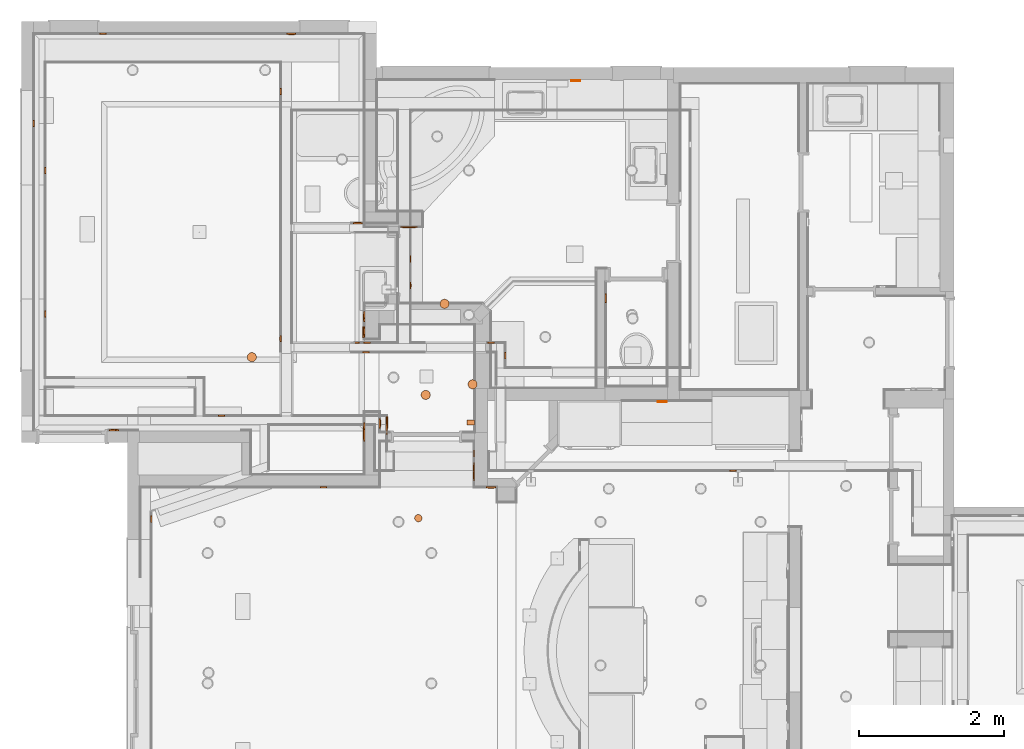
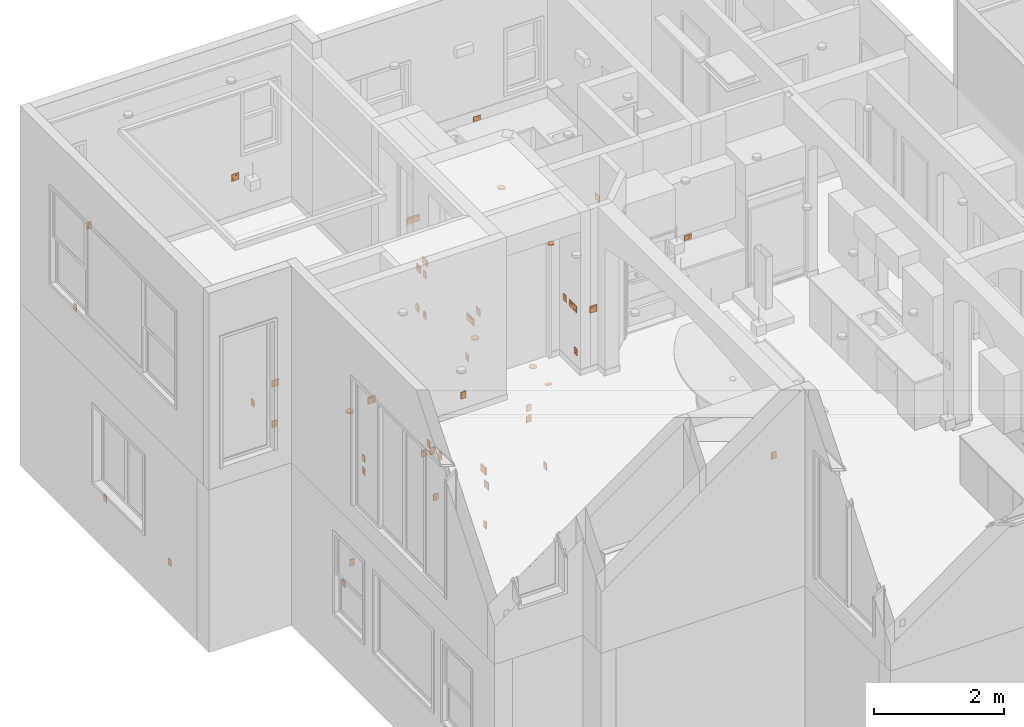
# One storey, part 54 of 60: 48 proxies.
"""IFC2X3 building model written with IfcOpenShell, lengths in feet."""

from ifc_helpers import new_model, entity, si_unit, converted_unit, direction, frame, frame_2d, origin, origin_2d_with_axis, place, context, subcontext, project, spatial, polyline, circle_curve, parameter, trimmed, segment, composite_curve, rectangle, circle, outline, extrude, source, transform, mapped, material, type_object, type_shapes, element, save


model = new_model("IFC2X3")

# Units and contexts
model_context = context("Model", 3, precision=0.0001, world=origin(), true_north=direction((6.123031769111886e-17, 1.0)))
plan_context = context("Plan", 3, precision=0.0001, world=origin(), true_north=direction((6.123031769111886e-17, 1.0)))
body_context = subcontext(model_context, "Body", "Model", "MODEL_VIEW")
ifc_project = project(units=[converted_unit("LENGTHUNIT", "FOOT", entity("IfcLengthMeasure", 0.3048), si_unit("LENGTHUNIT", "METRE"), dimensions=[1, 0, 0, 0, 0, 0, 0]), converted_unit("AREAUNIT", "SQUARE FOOT", entity("IfcAreaMeasure", 0.09290304), si_unit("AREAUNIT", "SQUARE_METRE"), dimensions=[2, 0, 0, 0, 0, 0, 0]), converted_unit("PLANEANGLEUNIT", "DEGREE", entity("IfcPlaneAngleMeasure", 0.017453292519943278), si_unit("PLANEANGLEUNIT", "RADIAN"), dimensions=[0, 0, 0, 0, 0, 0, 0])], contexts=[model_context, plan_context])

# Site, building, storey
site_placement = place(None, origin())
site = spatial("IfcSite", under=ifc_project, at=site_placement, Name="Default", CompositionType="ELEMENT")
building_placement = place(site_placement, origin())
building = spatial("IfcBuilding", under=site, at=building_placement, CompositionType="ELEMENT")
storey_placement = place(building_placement, origin())
storey = spatial("IfcBuildingStorey", under=building, at=storey_placement, Name="First floor", CompositionType="ELEMENT", Elevation=0.0)

# Proxies
ifc_material = material(Name="Default New Material")
building_element_proxy_type_1 = type_object("IfcBuildingElementProxyType", Name="switch 4:switch 4", PredefinedType="NOTDEFINED", material=ifc_material)
shared_shape_1 = source(origin(), body_context, "Body", "SweptSolid", [
    extrude(outline(composite_curve([segment(polyline([(-0.030916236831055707, -0.046587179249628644), (0.030916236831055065, -0.046587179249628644)]), True, "CONTINUOUS"), segment(trimmed(circle_curve(frame_2d((-0.00026496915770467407, 0.0), x_axis=(-1.0, 0.0)), 0.056059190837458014), [parameter(123.79474084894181)], [parameter(236.20525915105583)], True, "PARAMETER"), True, "CONTINUOUS"), segment(polyline([(0.030916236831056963, 0.04658717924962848), (-0.030916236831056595, 0.04658717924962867)]), True, "CONTINUOUS"), segment(trimmed(circle_curve(frame_2d((0.00026496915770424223, 0.0), x_axis=(-1.0, 0.0)), 0.056059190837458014), [parameter(303.79474084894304)], [parameter(56.2052591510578)], True, "PARAMETER"), True, "CONTINUOUS")], self_intersect=False), holes=[polyline([(0.01416238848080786, 0.027928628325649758), (0.026173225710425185, 0.02792862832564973), (0.026173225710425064, -0.006935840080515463), (0.01416238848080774, -0.006935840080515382), (0.01416238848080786, 0.027928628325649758)]), polyline([(-0.015270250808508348, 0.025046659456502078), (-0.015270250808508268, -0.004483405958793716), (-0.0278178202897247, -0.0044834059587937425), (-0.027817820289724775, 0.025046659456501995), (-0.015270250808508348, 0.025046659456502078)]), composite_curve([segment(polyline([(-0.01203154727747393, -0.041319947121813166), (-0.01203154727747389, -0.030018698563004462)]), True, "CONTINUOUS"), segment(trimmed(circle_curve(frame_2d((-0.00028489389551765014, -0.03001869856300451), x_axis=(-1.0, 0.0)), 0.011746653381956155), [parameter(180.00000000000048)], [parameter(3.5622212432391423e-13)], True, "PARAMETER"), False, "CONTINUOUS"), segment(polyline([(0.011461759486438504, -0.030018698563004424), (0.01146175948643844, -0.04131994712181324)]), True, "CONTINUOUS"), segment(polyline([(0.01146175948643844, -0.04131994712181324), (-0.01203154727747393, -0.041319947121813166)]), True, "CONTINUOUS")], self_intersect=False)]), frame((-0.0011190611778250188, 0.2703726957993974, 0.041666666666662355)), (0.0, 0.0, 1.0), 0.004209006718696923),
    extrude(outline(composite_curve([segment(polyline([(-0.030763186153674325, -0.04635654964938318), (0.030763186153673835, -0.04635654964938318)]), True, "CONTINUOUS"), segment(trimmed(circle_curve(frame_2d((-0.00026365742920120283, 0.0), x_axis=(-1.0, 0.0)), 0.05578167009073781), [parameter(123.79474084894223)], [parameter(236.20525915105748)], True, "PARAMETER"), True, "CONTINUOUS"), segment(polyline([(0.030763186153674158, 0.04635654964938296), (-0.030763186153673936, 0.04635654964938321)]), True, "CONTINUOUS"), segment(trimmed(circle_curve(frame_2d((0.0002636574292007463, 0.0), x_axis=(-1.0, 0.0)), 0.05578167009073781), [parameter(303.7947408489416)], [parameter(56.205259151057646)], True, "PARAMETER"), True, "CONTINUOUS")], self_intersect=False), holes=[polyline([(0.014092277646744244, 0.024722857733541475), (0.02604365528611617, 0.024722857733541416), (0.026043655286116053, -0.004727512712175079), (0.014092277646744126, -0.004727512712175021), (0.014092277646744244, 0.024722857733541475)]), polyline([(-0.01519465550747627, 0.024922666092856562), (-0.015194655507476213, -0.004461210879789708), (-0.027680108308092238, -0.00446121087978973), (-0.027680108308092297, 0.02492266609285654), (-0.01519465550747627, 0.024922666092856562)]), composite_curve([segment(polyline([(-0.011971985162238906, -0.04111539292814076), (-0.011971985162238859, -0.029870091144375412)]), True, "CONTINUOUS"), segment(trimmed(circle_curve(frame_2d((-0.00028348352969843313, -0.029870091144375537), x_axis=(-1.0, 0.0)), 0.011688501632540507), [parameter(179.9999999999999)], [parameter(0.0)], True, "PARAMETER"), False, "CONTINUOUS"), segment(polyline([(0.011405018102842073, -0.029870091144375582), (0.011405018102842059, -0.04111539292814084)]), True, "CONTINUOUS"), segment(polyline([(0.011405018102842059, -0.04111539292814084), (-0.011971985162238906, -0.04111539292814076)]), True, "CONTINUOUS")], self_intersect=False)]), frame((-0.0011190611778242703, 0.14560208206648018, 0.041666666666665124)), (0.0, 0.0, 1.0), 0.004209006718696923),
    extrude(rectangle(XDim=0.41666666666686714, YDim=0.2916666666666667, at=origin_2d_with_axis()), frame((0.0, 0.2083333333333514, 0.0), z_axis=(0.0, 0.0, 1.0), x_axis=(0.0, -1.0, 0.0)), (0.0, 0.0, 1.0), 0.041666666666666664),
])
type_shapes(building_element_proxy_type_1, [shared_shape_1])
for number, where, z_axis, x_axis, name in (
    (1, (-17.719826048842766, 31.583333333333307, 11.625000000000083), (0.0, 1.0, 0.0), (-1.0, 0.0, 0.0), "switch 4:switch 4"),
    (2, (-6.31250000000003, 31.79166666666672, 11.625000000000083), (-1.0, 0.0, 0.0), (0.0, -1.0, 0.0), "switch 4:switch 4"),
    (3, (-6.312500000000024, 36.083333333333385, 11.625000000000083), (-1.0, 0.0, 0.0), (0.0, -1.0, 0.0), "switch 4:switch 4"),
    (4, (-18.15517395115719, 49.5833333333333, 13.125000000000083), (0.0, -1.0, 0.0), (1.0, 0.0, 0.0), "switch 4:switch 4"),
    (5, (-21.312499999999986, 45.49999999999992, 11.625000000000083), (1.0, 0.0, 0.0), (0.0, 1.0, 0.0), "switch 4:switch 4"),
    (6, (-8.16666666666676, 29.04166666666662, 11.625002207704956), (0.0, -1.0, 0.0), (1.0, 0.0, 0.0), "switch 4:switch 4"),
    (7, (-1.3333333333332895, 29.46767395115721, 11.66666666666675), (-1.0, 0.0, 0.0), (0.0, -1.0, 0.0), "switch 4:switch 4"),
    (8, (10.374999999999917, 29.791666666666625, 0.9583355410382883), (0.0, -1.0, 0.0), (1.0, 0.0, 0.0), "switch 4:switch 4"),
    (9, (-6.2500000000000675, 35.16666666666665, 0.9583333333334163), (0.0, -1.0, 0.0), (1.0, 0.0, 0.0), "switch 4:switch 4"),
    (10, (-4.250000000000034, 38.16666666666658, 0.9583333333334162), (1.0, 0.0, 0.0), (0.0, 1.0, 0.0), "switch 4:switch 4"),
    (11, (-20.791666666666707, 36.87499999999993, 0.9583333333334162), (1.0, 0.0, 0.0), (0.0, 1.0, 0.0), "switch 4:switch 4"),
    (12, (-20.791666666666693, 43.37499999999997, 0.9583333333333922), (1.0, 0.0, 0.0), (0.0, 1.0, 0.0), "switch 4:switch 4"),
    (13, (-12.791666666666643, 32.249999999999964, 0.9583333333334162), (0.0, 1.0, 0.0), (-1.0, 0.0, 0.0), "switch 4:switch 4"),
    (14, (-10.083333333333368, 46.95833333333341, 0.9583333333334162), (-1.0, 0.0, 0.0), (0.0, -1.0, 0.0), "switch 4:switch 4"),
):
    element("IfcBuildingElementProxy", number, at=place(storey_placement, frame(where, z_axis=z_axis, x_axis=x_axis)), inside=storey, type_object=building_element_proxy_type_1, material=ifc_material, Name=name, ObjectType="switch 4:switch 4", context=body_context, shape_type="MappedRepresentation", body=[
        mapped(shared_shape_1, transform((0.0, 0.0, 0.0), scale=1.0)),
    ])
building_element_proxy_type_2 = type_object("IfcBuildingElementProxyType", Name="switch 1:switch 1", PredefinedType="NOTDEFINED", material=ifc_material)
shared_shape_2 = source(origin(), body_context, "Body", "SweptSolid", [
    extrude(rectangle(XDim=0.29166666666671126, YDim=0.41666666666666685, at=frame_2d((0.0, 2.7755575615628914e-17), x_axis=(1.0, 0.0))), frame((0.0, 0.20833333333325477, 0.0)), (0.0, 0.0, 1.0), 0.041666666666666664),
])
type_shapes(building_element_proxy_type_2, [shared_shape_2])
for number, where, z_axis, x_axis, name in (
    (15, (-6.312500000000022, 36.83333333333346, 11.625000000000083), (-1.0, 0.0, 0.0), (0.0, -1.0, 0.0), "switch 1:switch 1"),
    (16, (-6.312500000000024, 36.08333333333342, 14.125000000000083), (-1.0, 0.0, 0.0), (0.0, -1.0, 0.0), "switch 1:switch 1"),
    (17, (-1.3333333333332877, 30.56250000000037, 14.291666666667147), (-1.0, 0.0, 0.0), (0.0, -1.0, 0.0), "switch 1:switch 1"),
    (18, (-16.0, 27.58333333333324, 3.6250000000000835), (1.0, 0.0, 0.0), (0.0, 1.0, 0.0), "switch 1:switch 1"),
    (19, (-5.333333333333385, 31.749999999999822, 0.9583333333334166), (1.0, 0.0, 0.0), (0.0, 1.0, 0.0), "switch 1:switch 1"),
    (20, (-4.250000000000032, 39.35416666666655, 0.9583333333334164), (1.0, 0.0, 0.0), (0.0, 1.0, 0.0), "switch 1:switch 1"),
    (21, (-0.583333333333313, 35.54166666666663, 4.208333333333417), (0.0, 1.0, 0.0), (-1.0, 0.0, 0.0), "switch 1:switch 1"),
    (22, (0.041666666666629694, 35.0, 0.7500000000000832), (1.0, 0.0, 0.0), (0.0, 1.0, 0.0), "switch 1:switch 1"),
    (23, (-10.08333333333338, 35.750000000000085, 4.3333333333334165), (-1.0, 0.0, 0.0), (0.0, -1.0, 0.0), "switch 1:switch 1"),
    (24, (-6.208333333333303, 35.54166666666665, 3.5416666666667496), (0.0, 1.0, 0.0), (-1.0, 0.0, 0.0), "switch 1:switch 1"),
):
    element("IfcBuildingElementProxy", number, at=place(storey_placement, frame(where, z_axis=z_axis, x_axis=x_axis)), inside=storey, type_object=building_element_proxy_type_2, material=ifc_material, Name=name, ObjectType="switch 1:switch 1", context=body_context, shape_type="MappedRepresentation", body=[
        mapped(shared_shape_2, transform((0.0, 0.0, 0.0), scale=1.0)),
    ])
building_element_proxy_type_3 = type_object("IfcBuildingElementProxyType", Name="switch 6:switch 6", PredefinedType="NOTDEFINED", material=ifc_material)
shared_shape_3 = source(origin(), body_context, "Body", "SweptSolid", [
    extrude(outline(polyline([(-0.025444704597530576, -0.10104762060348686), (-0.007049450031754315, -0.10104762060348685), (-0.005760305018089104, -0.027097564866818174), (0.02168554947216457, 0.1140991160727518), (0.0165689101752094, 0.11509369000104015), (-0.025444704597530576, -0.10104762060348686)])), frame((0.015553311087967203, 0.21435624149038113, 0.047363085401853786), z_axis=(1.0, 0.0, 0.0), x_axis=(0.0, -0.19080899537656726, 0.9816271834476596)), (0.0, 0.0, 1.0), 0.11722231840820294),
    extrude(outline(polyline([(-0.10560931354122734, -0.005954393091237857), (0.11457744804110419, -0.005954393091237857), (0.11457744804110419, -0.0007419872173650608), (-0.02169697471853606, -0.0007419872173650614), (-0.10184860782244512, 0.013392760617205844), (-0.10560931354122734, -0.005954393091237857)])), frame((-0.1301384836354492, 0.20531775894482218, 0.047621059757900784), z_axis=(1.0, 0.0, 0.0), x_axis=(0.0, 1.0, 0.0)), (0.0, 0.0, 1.0), 0.11504888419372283),
    extrude(rectangle(XDim=0.41666666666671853, YDim=0.41666666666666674, at=origin_2d_with_axis()), frame((0.0, 0.20833333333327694, 0.0), z_axis=(0.0, 0.0, 1.0), x_axis=(0.0, -1.0, 0.0)), (0.0, 0.0, 1.0), 0.041666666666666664),
])
type_shapes(building_element_proxy_type_3, [shared_shape_3])
for number, where, z_axis, x_axis, name in (
    (25, (-17.64583333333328, 31.583333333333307, 14.125000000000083), (0.0, 1.0, 0.0), (-1.0, 0.0, 0.0), "switch 6:switch 6"),
    (26, (-6.312500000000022, 36.72916666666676, 14.125000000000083), (-1.0, 0.0, 0.0), (0.0, -1.0, 0.0), "switch 6:switch 6"),
    (27, (-9.625000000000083, 49.58333333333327, 13.125000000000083), (0.0, -1.0, 0.0), (1.0, 0.0, 0.0), "switch 6:switch 6"),
    (28, (-0.583333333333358, 29.041666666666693, 14.291666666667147), (0.0, -1.0, 0.0), (1.0, 0.0, 0.0), "switch 6:switch 6"),
    (29, (-5.645833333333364, 31.916666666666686, 14.125000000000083), (1.0, 0.0, 0.0), (0.0, 1.0, 0.0), "switch 6:switch 6"),
    (30, (-5.333333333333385, 31.62499999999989, 3.500000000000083), (1.0, 0.0, 0.0), (0.0, 1.0, 0.0), "switch 6:switch 6"),
    (31, (-6.624999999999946, 40.95833333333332, 3.5416666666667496), (0.0, 1.0, 0.0), (-1.0, 0.0, 0.0), "switch 6:switch 6"),
    (32, (4.58333333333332, 37.582988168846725, 14.125000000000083), (1.0, 0.0, 0.0), (0.0, 1.0, 0.0), "switch 6:switch 6"),
):
    element("IfcBuildingElementProxy", number, at=place(storey_placement, frame(where, z_axis=z_axis, x_axis=x_axis)), inside=storey, type_object=building_element_proxy_type_3, material=ifc_material, Name=name, ObjectType="switch 6:switch 6", context=body_context, shape_type="MappedRepresentation", body=[
        mapped(shared_shape_3, transform((0.0, 0.0, 0.0), scale=1.0)),
    ])
building_element_proxy_type_4 = type_object("IfcBuildingElementProxyType", Name="switch 3:switch 3", PredefinedType="NOTDEFINED", material=ifc_material)
shared_shape_4 = source(origin(), body_context, "Body", "SweptSolid", [
    extrude(outline(polyline([(-0.10405409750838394, -0.0058649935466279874), (0.11210607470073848, -0.0058649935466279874), (0.11210607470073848, -0.0006525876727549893), (-0.02127056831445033, -0.0006525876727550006), (-0.09888748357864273, 0.013035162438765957), (-0.10405409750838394, -0.0058649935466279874)])), frame((-0.058349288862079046, 0.2099944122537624, 0.047531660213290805), z_axis=(1.0, 0.0, 0.0), x_axis=(0.0, 1.0, 0.0)), (0.0, 0.0, 1.0), 0.11669857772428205),
    extrude(rectangle(XDim=0.41666666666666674, YDim=0.2916666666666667, at=origin_2d_with_axis()), frame((0.0, 0.20833333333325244, 0.0), z_axis=(0.0, 0.0, 1.0), x_axis=(0.0, -1.0, 0.0)), (0.0, 0.0, 1.0), 0.041666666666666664),
])
type_shapes(building_element_proxy_type_4, [shared_shape_4])
for number, where, z_axis, x_axis, name in (
    (33, (-0.5833333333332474, 35.54166666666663, 3.5416666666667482), (0.0, 1.0, 0.0), (-1.0, 0.0, 0.0), "switch 3:switch 3"),
    (34, (-10.08333333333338, 35.75000000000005, 3.5416666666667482), (-1.0, 0.0, 0.0), (0.0, -1.0, 0.0), "switch 3:switch 3"),
    (35, (-6.708333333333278, 35.54166666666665, 3.5416666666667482), (0.0, 1.0, 0.0), (-1.0, 0.0, 0.0), "switch 3:switch 3"),
):
    element("IfcBuildingElementProxy", number, at=place(storey_placement, frame(where, z_axis=z_axis, x_axis=x_axis)), inside=storey, type_object=building_element_proxy_type_4, material=ifc_material, Name=name, ObjectType="switch 3:switch 3", context=body_context, shape_type="MappedRepresentation", body=[
        mapped(shared_shape_4, transform((0.0, 0.0, 0.0), scale=1.0)),
    ])
building_element_proxy_type_5 = type_object("IfcBuildingElementProxyType", Name="switch 22:switch 22", PredefinedType="NOTDEFINED", material=ifc_material)
shared_shape_5 = source(origin(), body_context, "Body", "SweptSolid", [
    extrude(outline(polyline([(-0.1024795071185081, -0.006558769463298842), (0.11153581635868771, -0.006558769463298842), (0.11153581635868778, -0.00013120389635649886), (-0.02198831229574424, -0.00013120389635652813), (-0.09860381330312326, 0.013379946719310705), (-0.1024795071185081, -0.006558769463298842)])), frame((0.16096584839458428, 0.2062485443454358, 0.048225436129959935), z_axis=(1.0, 0.0, 0.0), x_axis=(0.0, 1.0, 0.0)), (0.0, 0.0, 1.0), 0.12240828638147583),
    extrude(outline(polyline([(-0.10247950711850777, -0.006558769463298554), (0.11153581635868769, -0.006558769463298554), (0.1115358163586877, -0.00013120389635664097), (-0.021988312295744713, -0.0001312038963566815), (-0.09860381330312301, 0.013379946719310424), (-0.10247950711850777, -0.006558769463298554)])), frame((0.015378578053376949, 0.20624854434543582, 0.048225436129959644), z_axis=(1.0, 0.0, 0.0), x_axis=(0.0, 1.0, 0.0)), (0.0, 0.0, 1.0), 0.12240828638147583),
    extrude(outline(polyline([(-0.025847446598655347, -0.09895516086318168), (-0.0058806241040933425, -0.09895516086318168), (-0.004558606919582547, -0.023119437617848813), (0.02129807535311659, 0.10990166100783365), (0.01498860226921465, 0.11112809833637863), (-0.025847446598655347, -0.09895516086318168)])), frame((-0.1342669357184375, 0.21445876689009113, 0.04815768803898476), z_axis=(1.0, 0.0, 0.0), x_axis=(0.0, -0.19080899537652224, 0.9816271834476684)), (0.0, 0.0, 1.0), 0.1224082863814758),
    extrude(outline(polyline([(-0.025847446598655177, -0.09895516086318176), (-0.005880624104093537, -0.09895516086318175), (-0.004558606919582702, -0.02311943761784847), (0.021298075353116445, 0.10990166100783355), (0.014988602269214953, 0.11112809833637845), (-0.025847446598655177, -0.09895516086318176)])), frame((-0.2819047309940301, 0.21445876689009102, 0.048157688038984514), z_axis=(1.0, 0.0, 0.0), x_axis=(0.0, -0.19080899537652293, 0.9816271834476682)), (0.0, 0.0, 1.0), 0.12240828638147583),
    extrude(rectangle(XDim=0.7500000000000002, YDim=0.4166666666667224, at=frame_2d((2.7755575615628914e-17, 2.7755575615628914e-17), x_axis=(1.0, 0.0))), frame((0.0, 0.2083333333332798, 0.0)), (0.0, 0.0, 1.0), 0.041666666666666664),
])
type_shapes(building_element_proxy_type_5, [shared_shape_5])
for number, where, z_axis, x_axis, name in (
    (36, (-6.312500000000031, 31.479166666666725, 14.166666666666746), (-1.0, 0.0, 0.0), (0.0, -1.0, 0.0), "switch 22:switch 22"),
    (37, (-1.3333333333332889, 29.750000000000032, 14.291666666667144), (-1.0, 0.0, 0.0), (0.0, -1.0, 0.0), "switch 22:switch 22"),
    (38, (-4.291666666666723, 40.8329881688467, 13.958333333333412), (0.0, -1.0, 0.0), (1.0, 0.0, 0.0), "switch 22:switch 22"),
):
    element("IfcBuildingElementProxy", number, at=place(storey_placement, frame(where, z_axis=z_axis, x_axis=x_axis)), inside=storey, type_object=building_element_proxy_type_5, material=ifc_material, Name=name, ObjectType="switch 22:switch 22", context=body_context, shape_type="MappedRepresentation", body=[
        mapped(shared_shape_5, transform((0.0, 0.0, 0.0), scale=1.0)),
    ])
building_element_proxy_type_6 = type_object("IfcBuildingElementProxyType", Name="Specialty Equipment_1:Specialty Equipment_1", PredefinedType="NOTDEFINED", material=ifc_material)
shared_shape_6 = source(origin(), body_context, "Body", "SweptSolid", [
    extrude(rectangle(XDim=0.5, YDim=0.08333333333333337, at=origin_2d_with_axis()), frame((0.0, -0.041666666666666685, 0.0), z_axis=(0.0, 0.0, 1.0), x_axis=(-1.0, 0.0, 0.0)), (0.0, 0.0, 1.0), 0.4166666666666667),
])
type_shapes(building_element_proxy_type_6, [shared_shape_6])
proxy_1_placement = place(storey_placement, frame((-5.333333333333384, 31.958333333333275, 4.25), z_axis=(0.0, 0.0, 1.0), x_axis=(0.0, 1.0, 0.0)))
element("IfcBuildingElementProxy", 39, at=proxy_1_placement, inside=storey, type_object=building_element_proxy_type_6, material=ifc_material, Name="Specialty Equipment_1:Specialty Equipment_1", ObjectType="Specialty Equipment_1:Specialty Equipment_1", context=body_context, shape_type="MappedRepresentation", body=[
    mapped(shared_shape_6, transform((0.0, 0.0, 0.0), scale=1.0)),
])
building_element_proxy_type_7 = type_object("IfcBuildingElementProxyType", Name="Specialty Equipment_1:Specialty Equipment_1", PredefinedType="NOTDEFINED", material=ifc_material)
shared_shape_7 = source(origin(), body_context, "Body", "SweptSolid", [
    extrude(rectangle(XDim=0.20833333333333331, YDim=0.33333333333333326, at=origin_2d_with_axis()), frame((0.0, -0.16666666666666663, 0.0), z_axis=(0.0, 0.0, 1.0), x_axis=(-1.0, 0.0, 0.0)), (0.0, 0.0, 1.0), 0.041666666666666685),
])
type_shapes(building_element_proxy_type_7, [shared_shape_7])
proxy_2_placement = place(storey_placement, frame((-1.6666666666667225, 31.958333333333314, 8.375), z_axis=(0.0, 0.0, 1.0), x_axis=(0.0, 1.0, 0.0)))
element("IfcBuildingElementProxy", 40, at=proxy_2_placement, inside=storey, type_object=building_element_proxy_type_7, material=ifc_material, Name="Specialty Equipment_1:Specialty Equipment_1", ObjectType="Specialty Equipment_1:Specialty Equipment_1", context=body_context, shape_type="MappedRepresentation", body=[
    mapped(shared_shape_7, transform((0.0, 0.0, 0.0), scale=1.0)),
])
building_element_proxy_type_8 = type_object("IfcBuildingElementProxyType", Name="Specialty Equipment_1:Specialty Equipment_1", PredefinedType="NOTDEFINED", material=ifc_material)
shared_shape_8 = source(origin(), body_context, "Body", "SweptSolid", [
    extrude(rectangle(XDim=0.5, YDim=0.08333333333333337, at=origin_2d_with_axis()), frame((0.0, -0.041666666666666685, 0.0), z_axis=(0.0, 0.0, 1.0), x_axis=(-1.0, 0.0, 0.0)), (0.0, 0.0, 1.0), 0.375),
])
type_shapes(building_element_proxy_type_8, [shared_shape_8])
proxy_3_placement = place(storey_placement, frame((-6.395833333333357, 36.04166666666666, 15.0), z_axis=(0.0, 0.0, 1.0), x_axis=(0.0, 1.0, 0.0)))
element("IfcBuildingElementProxy", 41, at=proxy_3_placement, inside=storey, type_object=building_element_proxy_type_8, material=ifc_material, Name="Specialty Equipment_1:Specialty Equipment_1", ObjectType="Specialty Equipment_1:Specialty Equipment_1", context=body_context, shape_type="MappedRepresentation", body=[
    mapped(shared_shape_8, transform((0.0, 0.0, 0.0), scale=1.0)),
])
building_element_proxy_type_9 = type_object("IfcBuildingElementProxyType", Name="Specialty Equipment_4:Specialty Equipment_4", PredefinedType="NOTDEFINED", material=ifc_material)
shared_shape_9 = source(origin(), body_context, "Body", "SweptSolid", [
    extrude(circle(Radius=0.20833333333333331, at=frame_2d((-1.3404011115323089e-17, -3.3657178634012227e-16), x_axis=(1.0, 0.0))), frame((0.0, 0.0, -0.04166666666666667)), (0.0, 0.0, 1.0), 0.04166666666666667),
])
type_shapes(building_element_proxy_type_9, [shared_shape_9])
for number, where, name in (
    (42, (-1.4166666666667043, 33.687499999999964, 8.416666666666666), "Specialty Equipment_4:Specialty Equipment_4"),
    (43, (-11.416666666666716, 34.91666666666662, 8.416666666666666), "Specialty Equipment_4:Specialty Equipment_4"),
    (44, (-2.687500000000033, 37.3333333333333, 8.416666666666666), "Specialty Equipment_4:Specialty Equipment_4"),
    (45, (-3.5416666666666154, 33.20833333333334, 20.5), "Specialty Equipment_4:Specialty Equipment_4"),
):
    element("IfcBuildingElementProxy", number, at=place(storey_placement, frame(where)), inside=storey, type_object=building_element_proxy_type_9, material=ifc_material, Name=name, ObjectType="Specialty Equipment_4:Specialty Equipment_4", context=body_context, shape_type="MappedRepresentation", body=[
        mapped(shared_shape_9, transform((0.0, 0.0, 0.0), scale=1.0)),
    ])
building_element_proxy_type_10 = type_object("IfcBuildingElementProxyType", Name="Specialty Equipment_4:Specialty Equipment_4", PredefinedType="NOTDEFINED", material=ifc_material)
shared_shape_10 = source(origin(), body_context, "Body", "SweptSolid", [
    extrude(circle(Radius=0.16666666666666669, at=frame_2d((-1.3404011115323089e-17, -2.6925742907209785e-16), x_axis=(1.0, 0.0))), frame((0.0, 0.0, -0.04166666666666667)), (0.0, 0.0, 1.0), 0.04166666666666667),
])
type_shapes(building_element_proxy_type_10, [shared_shape_10])
proxy_4_placement = place(storey_placement, frame((-3.8749999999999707, 27.624999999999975, 20.541666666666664)))
element("IfcBuildingElementProxy", 46, at=proxy_4_placement, inside=storey, type_object=building_element_proxy_type_10, material=ifc_material, Name="Specialty Equipment_4:Specialty Equipment_4", ObjectType="Specialty Equipment_4:Specialty Equipment_4", context=body_context, shape_type="MappedRepresentation", body=[
    mapped(shared_shape_10, transform((0.0, 0.0, 0.0), scale=1.0)),
])
building_element_proxy_type_11 = type_object("IfcBuildingElementProxyType", Name="switch 15:switch 15", PredefinedType="NOTDEFINED", material=ifc_material)
shared_shape_11 = source(origin(), body_context, "Body", "SweptSolid", [
    extrude(outline(composite_curve([segment(polyline([(-0.030916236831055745, -0.04658717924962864), (0.030916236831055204, -0.04658717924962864)]), True, "CONTINUOUS"), segment(trimmed(circle_curve(frame_2d((-0.0002649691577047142, 0.0), x_axis=(-1.0, 0.0)), 0.056059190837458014), [parameter(123.79474084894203)], [parameter(236.20525915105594)], True, "PARAMETER"), True, "CONTINUOUS"), segment(polyline([(0.030916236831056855, 0.046587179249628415), (-0.030916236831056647, 0.04658717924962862)]), True, "CONTINUOUS"), segment(trimmed(circle_curve(frame_2d((0.0002649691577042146, 0.0), x_axis=(-1.0, 0.0)), 0.056059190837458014), [parameter(303.79474084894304)], [parameter(56.205259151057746)], True, "PARAMETER"), True, "CONTINUOUS")], self_intersect=False), holes=[polyline([(0.014162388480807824, 0.02792862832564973), (0.02617322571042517, 0.02792862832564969), (0.026173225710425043, -0.00693584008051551), (0.014162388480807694, -0.006935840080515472), (0.014162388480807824, 0.02792862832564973)]), polyline([(-0.015270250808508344, 0.025046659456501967), (-0.015270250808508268, -0.0044834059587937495), (-0.0278178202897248, -0.004483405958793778), (-0.02781782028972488, 0.025046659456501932), (-0.015270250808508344, 0.025046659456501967)]), composite_curve([segment(polyline([(-0.01203154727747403, -0.041319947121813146), (-0.012031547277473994, -0.03001869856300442)]), True, "CONTINUOUS"), segment(trimmed(circle_curve(frame_2d((-0.00028489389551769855, -0.030018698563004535), x_axis=(-1.0, 0.0)), 0.011746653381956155), [parameter(179.9999999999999)], [parameter(0.0)], True, "PARAMETER"), False, "CONTINUOUS"), segment(polyline([(0.01146175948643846, -0.030018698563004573), (0.011461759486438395, -0.041319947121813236)]), True, "CONTINUOUS"), segment(polyline([(0.011461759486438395, -0.041319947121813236), (-0.01203154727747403, -0.041319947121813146)]), True, "CONTINUOUS")], self_intersect=False)]), frame((-0.06250062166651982, 0.1354596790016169, 0.041666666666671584), z_axis=(0.0, 0.0, 1.0), x_axis=(0.0, 1.0, 0.0)), (0.0, 0.0, 1.0), 0.004209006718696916),
    extrude(outline(composite_curve([segment(polyline([(-0.030763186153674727, -0.04635654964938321), (0.030763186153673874, -0.04635654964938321)]), True, "CONTINUOUS"), segment(trimmed(circle_curve(frame_2d((-0.0002636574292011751, 0.0), x_axis=(-1.0, 0.0)), 0.05578167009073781), [parameter(123.79474084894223)], [parameter(236.20525915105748)], True, "PARAMETER"), True, "CONTINUOUS"), segment(polyline([(0.030763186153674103, 0.046356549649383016), (-0.03076318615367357, 0.04635654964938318)]), True, "CONTINUOUS"), segment(trimmed(circle_curve(frame_2d((0.000263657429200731, 0.0), x_axis=(-1.0, 0.0)), 0.05578167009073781), [parameter(303.7947408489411)], [parameter(56.205259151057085)], True, "PARAMETER"), True, "CONTINUOUS")], self_intersect=False), holes=[polyline([(0.014092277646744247, 0.024722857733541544), (0.026043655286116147, 0.024722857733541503), (0.026043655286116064, -0.00472751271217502), (0.014092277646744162, -0.004727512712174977), (0.014092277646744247, 0.024722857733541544)]), polyline([(-0.01519465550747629, 0.024922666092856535), (-0.015194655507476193, -0.004461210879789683), (-0.027680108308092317, -0.00446121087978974), (-0.027680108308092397, 0.024922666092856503), (-0.01519465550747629, 0.024922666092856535)]), composite_curve([segment(polyline([(-0.011971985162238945, -0.04111539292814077), (-0.011971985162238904, -0.029870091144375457)]), True, "CONTINUOUS"), segment(trimmed(circle_curve(frame_2d((-0.00028348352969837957, -0.029870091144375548), x_axis=(-1.0, 0.0)), 0.011688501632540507), [parameter(180.00000000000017)], [parameter(0.0)], True, "PARAMETER"), False, "CONTINUOUS"), segment(polyline([(0.01140501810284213, -0.029870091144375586), (0.011405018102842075, -0.04111539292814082)]), True, "CONTINUOUS"), segment(polyline([(0.011405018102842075, -0.04111539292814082), (-0.011971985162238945, -0.04111539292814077)]), True, "CONTINUOUS")], self_intersect=False)]), frame((0.06226999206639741, 0.13545967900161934, 0.041666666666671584), z_axis=(0.0, 0.0, 1.0), x_axis=(0.0, 1.0, 0.0)), (0.0, 0.0, 1.0), 0.004209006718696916),
    extrude(rectangle(XDim=0.41666666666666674, YDim=0.29166666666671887, at=origin_2d_with_axis()), frame((0.0, 0.14583333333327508, 0.0), z_axis=(0.0, 0.0, 1.0), x_axis=(-1.0, 0.0, 0.0)), (0.0, 0.0, 1.0), 0.04166666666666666),
])
type_shapes(building_element_proxy_type_11, [shared_shape_11])
for number, where, z_axis, x_axis, name in (
    (47, (7.166666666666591, 32.91666666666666, 13.708333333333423), (0.0, -1.0, 0.0), (1.0, 0.0, 0.0), "switch 15:switch 15"),
    (48, (3.249999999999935, 47.457988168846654, 13.874999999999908), (0.0, -1.0, 0.0), (-1.0, 0.0, 0.0), "switch 15:switch 15"),
):
    element("IfcBuildingElementProxy", number, at=place(storey_placement, frame(where, z_axis=z_axis, x_axis=x_axis)), inside=storey, type_object=building_element_proxy_type_11, material=ifc_material, Name=name, ObjectType="switch 15:switch 15", context=body_context, shape_type="MappedRepresentation", body=[
        mapped(shared_shape_11, transform((0.0, 0.0, 0.0), scale=1.0)),
    ])

save(model, "model.ifc")
